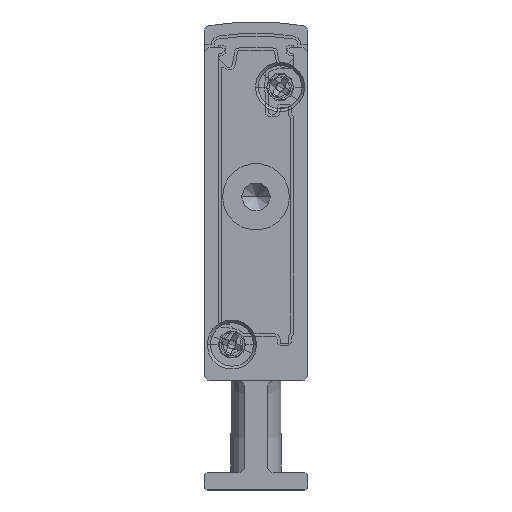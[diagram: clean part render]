
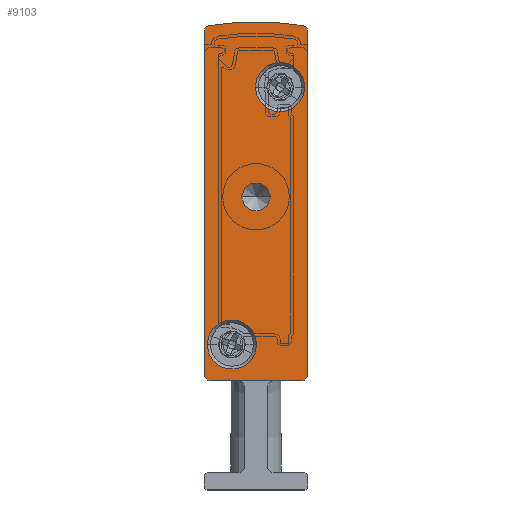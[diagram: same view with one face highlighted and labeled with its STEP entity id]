
A CAD part, front view. The second image highlights one B-rep face of the part: STEP entity #9103.
In plain terms, the highlighted planar face has unit normal (0, -1, 0).
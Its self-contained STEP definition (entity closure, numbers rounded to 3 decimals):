
#19 = CARTESIAN_POINT ( 'NONE',  ( 4.5, -2.5, 17.092 ) ) ;
#137 = CARTESIAN_POINT ( 'NONE',  ( 0., -2.5, 10. ) ) ;
#340 = EDGE_CURVE ( 'NONE', #9384, #3605, #14473, .T. ) ;
#542 = ORIENTED_EDGE ( 'NONE', *, *, #10435, .T. ) ;
#674 = DIRECTION ( 'NONE',  ( 0., -1., 0. ) ) ;
#781 = EDGE_LOOP ( 'NONE', ( #16854, #10783 ) ) ;
#828 = CARTESIAN_POINT ( 'NONE',  ( 8.5, -2.5, 9.5 ) ) ;
#1037 = VERTEX_POINT ( 'NONE', #5984 ) ;
#1412 = DIRECTION ( 'NONE',  ( 0., 1., 0. ) ) ;
#1564 = DIRECTION ( 'NONE',  ( 0., 1., 0. ) ) ;
#1634 = PLANE ( 'NONE',  #15389 ) ;
#1735 = EDGE_LOOP ( 'NONE', ( #542, #15016 ) ) ;
#1810 = CARTESIAN_POINT ( 'NONE',  ( 6.6, -2.5, 35.05 ) ) ;
#1933 = DIRECTION ( 'NONE',  ( 0., -1., 0. ) ) ;
#2044 = CARTESIAN_POINT ( 'NONE',  ( 0.5, -2.5, 9.5 ) ) ;
#2086 = EDGE_CURVE ( 'NONE', #3605, #7038, #9684, .T. ) ;
#2197 = CARTESIAN_POINT ( 'NONE',  ( 9., -2.5, 39.902 ) ) ;
#2247 = AXIS2_PLACEMENT_3D ( 'NONE', #19025, #674, #3716 ) ;
#2403 = AXIS2_PLACEMENT_3D ( 'NONE', #11246, #1933, #9517 ) ;
#2864 = CARTESIAN_POINT ( 'NONE',  ( 4.5, -2.5, 25.5 ) ) ;
#3158 = CARTESIAN_POINT ( 'NONE',  ( 0.5, -2.5, 39.902 ) ) ;
#3163 = ORIENTED_EDGE ( 'NONE', *, *, #19380, .F. ) ;
#3193 = DIRECTION ( 'NONE',  ( 0., 0., 1. ) ) ;
#3206 = DIRECTION ( 'NONE',  ( 1., 0., 0. ) ) ;
#3274 = DIRECTION ( 'NONE',  ( -1., 0., 0. ) ) ;
#3605 = VERTEX_POINT ( 'NONE', #18889 ) ;
#3613 = FACE_OUTER_BOUND ( 'NONE', #19146, .T. ) ;
#3716 = DIRECTION ( 'NONE',  ( 1., 0., 0. ) ) ;
#3974 = EDGE_CURVE ( 'NONE', #15667, #1037, #12412, .T. ) ;
#4083 = VECTOR ( 'NONE', #8728, 1000. ) ;
#4639 = DIRECTION ( 'NONE',  ( 0., 1., 0. ) ) ;
#4683 = EDGE_LOOP ( 'NONE', ( #3163, #13173 ) ) ;
#4737 = EDGE_CURVE ( 'NONE', #15941, #17922, #6101, .T. ) ;
#4773 = AXIS2_PLACEMENT_3D ( 'NONE', #9620, #15809, #8200 ) ;
#4993 = AXIS2_PLACEMENT_3D ( 'NONE', #16885, #1564, #7668 ) ;
#5302 = CIRCLE ( 'NONE', #4773, 2.15 ) ;
#5343 = VERTEX_POINT ( 'NONE', #2044 ) ;
#5932 = VERTEX_POINT ( 'NONE', #9311 ) ;
#5984 = CARTESIAN_POINT ( 'NONE',  ( 0., -2.5, 39.902 ) ) ;
#6013 = CARTESIAN_POINT ( 'NONE',  ( 0.25, -2.5, 12.65 ) ) ;
#6101 = CIRCLE ( 'NONE', #17553, 2.15 ) ;
#6132 = AXIS2_PLACEMENT_3D ( 'NONE', #19, #18503, #3274 ) ;
#6225 = DIRECTION ( 'NONE',  ( 0., 1., 0. ) ) ;
#6967 = CARTESIAN_POINT ( 'NONE',  ( 4.5, -2.5, 25.5 ) ) ;
#7038 = VERTEX_POINT ( 'NONE', #16791 ) ;
#7290 = CARTESIAN_POINT ( 'NONE',  ( 4.55, -2.5, 12.65 ) ) ;
#7330 = VERTEX_POINT ( 'NONE', #7290 ) ;
#7394 = EDGE_CURVE ( 'NONE', #1037, #8838, #7964, .T. ) ;
#7655 = FACE_BOUND ( 'NONE', #4683, .T. ) ;
#7668 = DIRECTION ( 'NONE',  ( -1., 0., 0. ) ) ;
#7964 = CIRCLE ( 'NONE', #16477, 0.5 ) ;
#8200 = DIRECTION ( 'NONE',  ( 1., 0., 0. ) ) ;
#8431 = ORIENTED_EDGE ( 'NONE', *, *, #18822, .F. ) ;
#8499 = DIRECTION ( 'NONE',  ( 0., 1., 0. ) ) ;
#8574 = EDGE_CURVE ( 'NONE', #8838, #9384, #15007, .T. ) ;
#8683 = AXIS2_PLACEMENT_3D ( 'NONE', #9321, #6225, #10797 ) ;
#8728 = DIRECTION ( 'NONE',  ( -1., 0., 0. ) ) ;
#8838 = VERTEX_POINT ( 'NONE', #18878 ) ;
#8867 = CIRCLE ( 'NONE', #18950, 1.25 ) ;
#9086 = CIRCLE ( 'NONE', #2247, 2.15 ) ;
#9103 = ADVANCED_FACE ( 'NONE', ( #15769, #7655, #3613, #10067 ), #1634, .F. ) ;
#9205 = CIRCLE ( 'NONE', #2403, 2.15 ) ;
#9283 = DIRECTION ( 'NONE',  ( -1., 0., 0. ) ) ;
#9311 = CARTESIAN_POINT ( 'NONE',  ( 3.25, -2.5, 25.5 ) ) ;
#9321 = CARTESIAN_POINT ( 'NONE',  ( 0.5, -2.5, 10. ) ) ;
#9384 = VERTEX_POINT ( 'NONE', #12859 ) ;
#9465 = VERTEX_POINT ( 'NONE', #10270 ) ;
#9517 = DIRECTION ( 'NONE',  ( 1., 0., 0. ) ) ;
#9620 = CARTESIAN_POINT ( 'NONE',  ( 2.4, -2.5, 12.65 ) ) ;
#9684 = LINE ( 'NONE', #2197, #17788 ) ;
#9877 = VERTEX_POINT ( 'NONE', #828 ) ;
#10067 = FACE_BOUND ( 'NONE', #1735, .T. ) ;
#10172 = DIRECTION ( 'NONE',  ( 0., 1., 0. ) ) ;
#10270 = CARTESIAN_POINT ( 'NONE',  ( 5.75, -2.5, 25.5 ) ) ;
#10284 = EDGE_CURVE ( 'NONE', #16445, #7330, #9205, .T. ) ;
#10309 = CARTESIAN_POINT ( 'NONE',  ( 8.5, -2.5, 39.902 ) ) ;
#10435 = EDGE_CURVE ( 'NONE', #5932, #9465, #17550, .T. ) ;
#10451 = CARTESIAN_POINT ( 'NONE',  ( 0.5, -2.5, 39.902 ) ) ;
#10664 = CIRCLE ( 'NONE', #8683, 0.5 ) ;
#10727 = ORIENTED_EDGE ( 'NONE', *, *, #7394, .F. ) ;
#10783 = ORIENTED_EDGE ( 'NONE', *, *, #11859, .F. ) ;
#10797 = DIRECTION ( 'NONE',  ( -1., 0., 0. ) ) ;
#11246 = CARTESIAN_POINT ( 'NONE',  ( 2.4, -2.5, 12.65 ) ) ;
#11859 = EDGE_CURVE ( 'NONE', #17922, #15941, #9086, .T. ) ;
#11917 = VECTOR ( 'NONE', #3193, 1000. ) ;
#12412 = LINE ( 'NONE', #15433, #11917 ) ;
#12466 = LINE ( 'NONE', #16341, #4083 ) ;
#12859 = CARTESIAN_POINT ( 'NONE',  ( 8.592, -2.5, 40.393 ) ) ;
#13173 = ORIENTED_EDGE ( 'NONE', *, *, #10284, .F. ) ;
#13204 = CARTESIAN_POINT ( 'NONE',  ( 8.75, -2.5, 35.05 ) ) ;
#13216 = ORIENTED_EDGE ( 'NONE', *, *, #3974, .F. ) ;
#13306 = DIRECTION ( 'NONE',  ( 0., 0., -1. ) ) ;
#13418 = DIRECTION ( 'NONE',  ( -1., 0., 0. ) ) ;
#13430 = EDGE_CURVE ( 'NONE', #5343, #15667, #10664, .T. ) ;
#13620 = AXIS2_PLACEMENT_3D ( 'NONE', #6967, #8499, #16179 ) ;
#13752 = DIRECTION ( 'NONE',  ( -1., 0., 0. ) ) ;
#14369 = ORIENTED_EDGE ( 'NONE', *, *, #17030, .F. ) ;
#14473 = CIRCLE ( 'NONE', #14726, 0.5 ) ;
#14726 = AXIS2_PLACEMENT_3D ( 'NONE', #10309, #10172, #13418 ) ;
#14780 = DIRECTION ( 'NONE',  ( -1., 0., 0. ) ) ;
#15007 = CIRCLE ( 'NONE', #6132, 23.658 ) ;
#15016 = ORIENTED_EDGE ( 'NONE', *, *, #17059, .T. ) ;
#15276 = ORIENTED_EDGE ( 'NONE', *, *, #8574, .F. ) ;
#15361 = CIRCLE ( 'NONE', #4993, 0.5 ) ;
#15389 = AXIS2_PLACEMENT_3D ( 'NONE', #3158, #18457, #9283 ) ;
#15433 = CARTESIAN_POINT ( 'NONE',  ( 0., -2.5, 39.902 ) ) ;
#15667 = VERTEX_POINT ( 'NONE', #137 ) ;
#15769 = FACE_BOUND ( 'NONE', #781, .T. ) ;
#15809 = DIRECTION ( 'NONE',  ( 0., -1., 0. ) ) ;
#15941 = VERTEX_POINT ( 'NONE', #13204 ) ;
#16179 = DIRECTION ( 'NONE',  ( -1., 0., 0. ) ) ;
#16308 = ORIENTED_EDGE ( 'NONE', *, *, #2086, .F. ) ;
#16341 = CARTESIAN_POINT ( 'NONE',  ( 0.5, -2.5, 9.5 ) ) ;
#16445 = VERTEX_POINT ( 'NONE', #6013 ) ;
#16477 = AXIS2_PLACEMENT_3D ( 'NONE', #10451, #4639, #13752 ) ;
#16791 = CARTESIAN_POINT ( 'NONE',  ( 9., -2.5, 10. ) ) ;
#16854 = ORIENTED_EDGE ( 'NONE', *, *, #4737, .F. ) ;
#16885 = CARTESIAN_POINT ( 'NONE',  ( 8.5, -2.5, 10. ) ) ;
#17030 = EDGE_CURVE ( 'NONE', #9877, #5343, #12466, .T. ) ;
#17059 = EDGE_CURVE ( 'NONE', #9465, #5932, #8867, .T. ) ;
#17062 = DIRECTION ( 'NONE',  ( 0., -1., 0. ) ) ;
#17550 = CIRCLE ( 'NONE', #13620, 1.25 ) ;
#17553 = AXIS2_PLACEMENT_3D ( 'NONE', #1810, #17062, #3206 ) ;
#17788 = VECTOR ( 'NONE', #13306, 1000. ) ;
#17922 = VERTEX_POINT ( 'NONE', #18557 ) ;
#18090 = ORIENTED_EDGE ( 'NONE', *, *, #340, .F. ) ;
#18457 = DIRECTION ( 'NONE',  ( 0., 1., 0. ) ) ;
#18503 = DIRECTION ( 'NONE',  ( 0., 1., 0. ) ) ;
#18557 = CARTESIAN_POINT ( 'NONE',  ( 4.45, -2.5, 35.05 ) ) ;
#18822 = EDGE_CURVE ( 'NONE', #7038, #9877, #15361, .T. ) ;
#18878 = CARTESIAN_POINT ( 'NONE',  ( 0.408, -2.5, 40.393 ) ) ;
#18889 = CARTESIAN_POINT ( 'NONE',  ( 9., -2.5, 39.902 ) ) ;
#18950 = AXIS2_PLACEMENT_3D ( 'NONE', #2864, #1412, #14780 ) ;
#19025 = CARTESIAN_POINT ( 'NONE',  ( 6.6, -2.5, 35.05 ) ) ;
#19146 = EDGE_LOOP ( 'NONE', ( #10727, #13216, #19449, #14369, #8431, #16308, #18090, #15276 ) ) ;
#19380 = EDGE_CURVE ( 'NONE', #7330, #16445, #5302, .T. ) ;
#19449 = ORIENTED_EDGE ( 'NONE', *, *, #13430, .F. ) ;
